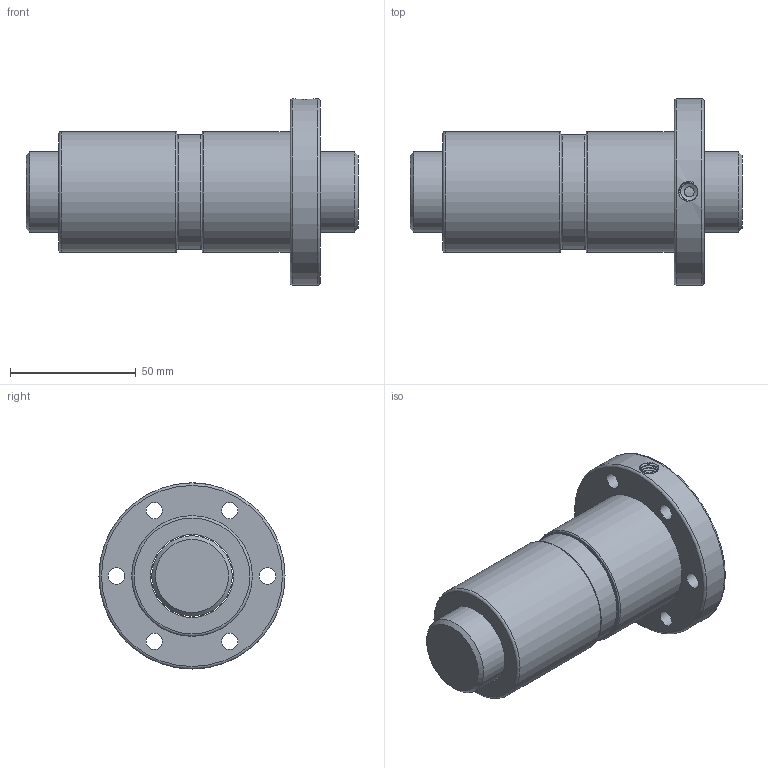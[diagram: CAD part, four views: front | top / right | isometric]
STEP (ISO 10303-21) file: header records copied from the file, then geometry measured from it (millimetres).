
FILE_DESCRIPTION(/* description */ ('Unknown','CAx-IF Rec.Pracs.---Representation and Presentation of Product Manufacturing Information (PMI)---4.0---2014-10-13','CAx-IF Rec.Pracs.---3D Tessellated Geometry---0.4---2014-09-14','2;1'),/* implementation_level */ '2;1');
FILE_NAME(/* name */ 'DFM0325T',/* time_stamp */ '2020-12-08T11:48:17+08:00',/* author */ ('Unknown'),/* organization */ ('Unknown'),/* preprocessor_version */ 'ST-DEVELOPER v16.7',/* originating_system */ 'Solid Edge',/* authorisation */ 'Unknown');
FILE_SCHEMA (('AP242_MANAGED_MODEL_BASED_3D_ENGINEERING_MIM_LF { 1 0 10303 442 1 1 4 }'));
Length unit declared in the file: millimetre
Products named in the file (1): DFM0325T
Bounding box: 132 x 74 x 74 mm (x, y, z)
Volume: 227953.1 mm3; surface area: 51222.7 mm2
Topology: 2 solids, 2 shells, 48 faces, 99 edges, 64 vertices
Faces by surface type: cylinder 22, plane 14, torus 7, cone 3, bspline 2
Full cylindrical faces by diameter (mm): 4 x1, 6.5 x6, 6.917 x1, 11 x6, 32 x1, 33 x1, 45.768 x1, 48 x2, 74 x1
Entity records: 2981 total; most frequent: CARTESIAN_POINT 2009, DIRECTION 200, ORIENTED_EDGE 122, EDGE_LOOP 103, FACE_BOUND 103, AXIS2_PLACEMENT_3D 101, EDGE_CURVE 61, VERTEX_POINT 56
